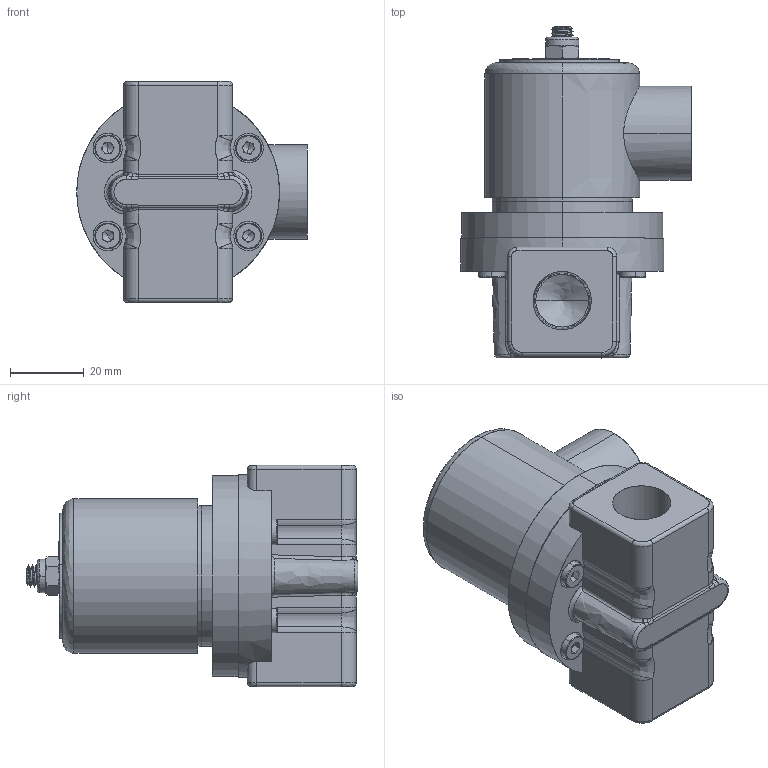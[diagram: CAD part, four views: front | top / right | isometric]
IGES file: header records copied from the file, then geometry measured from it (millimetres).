
Start section: SolidWorks IGES file using analytic representation for surfaces
Global section: file name: C:\Users\Toshiba\Desktop\AS2201A-03-#.IGS; native system: SolidWorks 2014; preprocessor: SolidWorks 2014; author: Toshiba; date: 160126.085003; units: millimetre
Bounding box: 62.5 x 90 x 60 mm (x, y, z)
Surface area: 36949.7 mm2 (no closed solid volume)
Topology: 0 solids, 0 shells, 456 faces, 5948 edges, 5936 vertices
Faces by surface type: bspline 248, revolution 208
